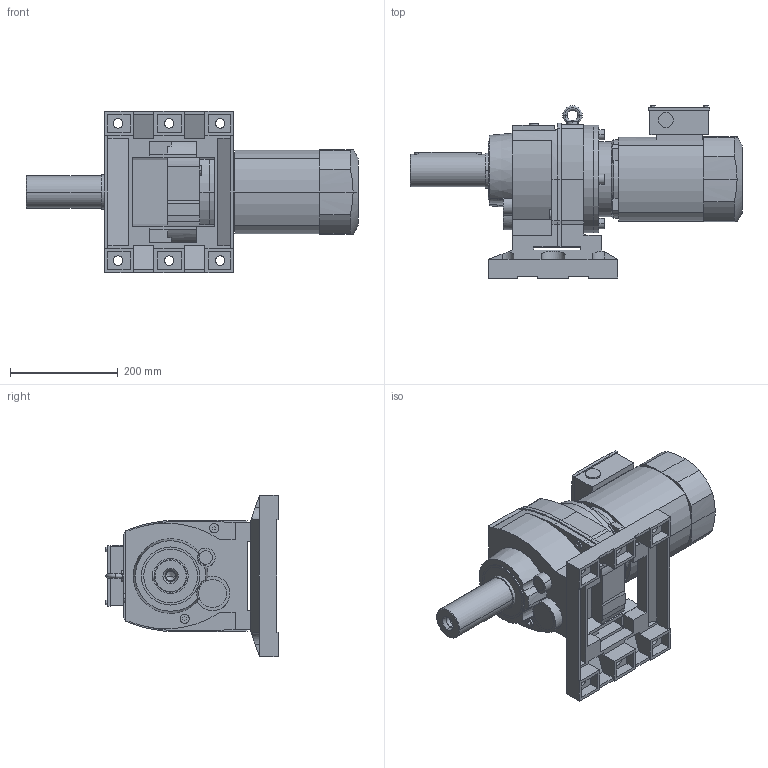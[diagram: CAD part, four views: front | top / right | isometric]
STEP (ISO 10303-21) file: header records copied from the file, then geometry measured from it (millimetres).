
FILE_DESCRIPTION(('STEP AP214'),'1');
FILE_NAME('STEP-File.stp','2018-01-01T00:00:00',(' '),('KEB'),' ','KEB-DRIVE',' ');
FILE_SCHEMA(('AUTOMOTIVE_DESIGN { 1 0 10303 214 1 1 1 1 }'));
Length unit declared in the file: millimetre
Products named in the file (8): z4a; w4_we_60x140; cm4; dm90l_kkn; kk08; PLUG_M25; ndm90; ZG43 DM80GD4§CAD13
Assembly tree (7 placements, depth 2):
  ZG43 DM80GD4§CAD13
    z4a
    w4_we_60x140
    cm4
    dm90l_kkn
    kk08
    PLUG_M25
    ndm90
Bounding box: 617 x 320.5 x 300 mm (x, y, z)
Volume: 14253738.2 mm3; surface area: 880438.6 mm2
Topology: 7 solids, 7 shells, 620 faces, 1794 edges, 1322 vertices
Faces by surface type: plane 447, cylinder 112, cone 52, torus 7, bspline 2
Entity records: 23223 total; most frequent: CARTESIAN_POINT 7309, ORIENTED_EDGE 3584, DIRECTION 2620, EDGE_CURVE 1792, VECTOR 1372, LINE 1372, VERTEX_POINT 1322, EDGE_LOOP 778
